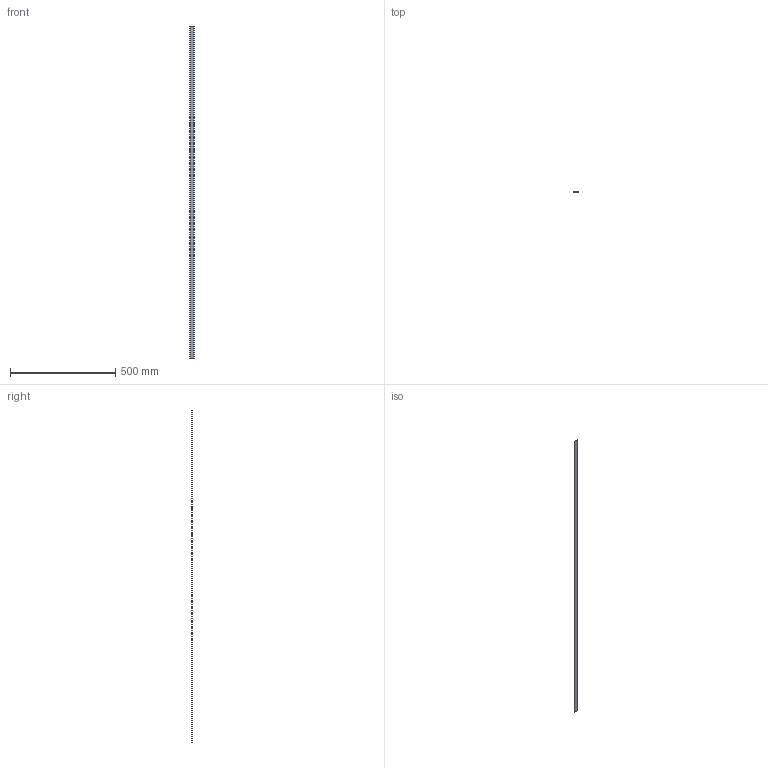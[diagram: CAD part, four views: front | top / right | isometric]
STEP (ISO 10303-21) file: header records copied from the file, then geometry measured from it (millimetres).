
FILE_DESCRIPTION (( 'STEP AP203' ), '1' );
FILE_NAME ('CVR-000652-00.step', '2020-11-18T18:32:48', ( '' ), ( '' ), 'SwSTEP 2.0', 'SolidWorks 2020', '' );
FILE_SCHEMA (( 'CONFIG_CONTROL_DESIGN' ));
Length unit declared in the file: millimetre
Products named in the file (1): CVR-000652-00
Bounding box: 23.63 x 2.85 x 1574.8 mm (x, y, z)
Volume: 43287.6 mm3; surface area: 88721 mm2
Topology: 1 solids, 1 shells, 28 faces, 78 edges, 52 vertices
Faces by surface type: plane 16, cylinder 12
Entity records: 983 total; most frequent: DIRECTION 160, CARTESIAN_POINT 159, ORIENTED_EDGE 156, EDGE_CURVE 78, LINE 54, VECTOR 54, AXIS2_PLACEMENT_3D 53, VERTEX_POINT 52
